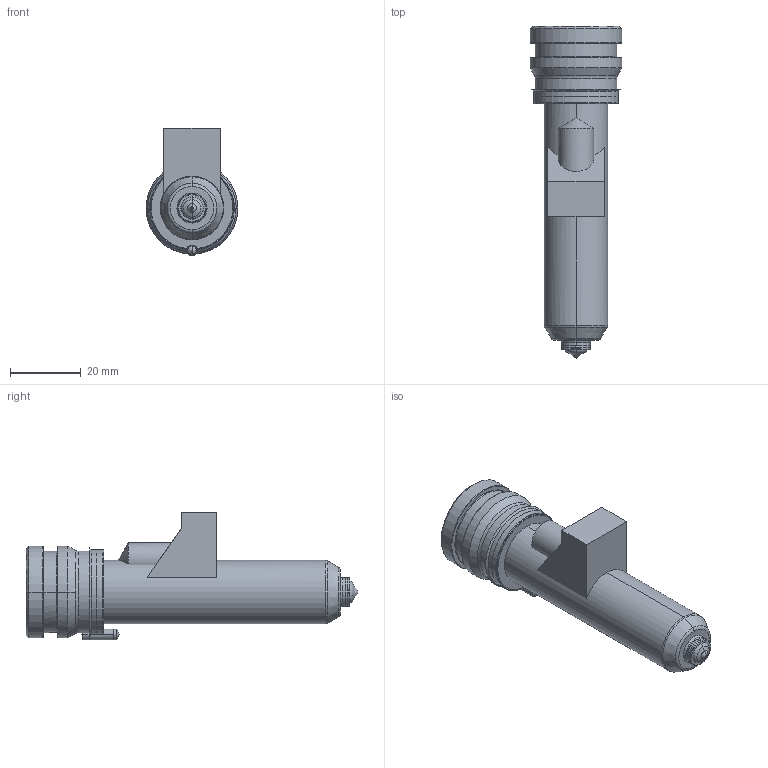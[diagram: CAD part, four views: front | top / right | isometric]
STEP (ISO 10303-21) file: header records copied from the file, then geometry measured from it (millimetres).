
FILE_DESCRIPTION((''),'2;1');
FILE_NAME('TH18076-M-1-PK-JG','2023-12-14T',('umhib'),('Thermoplay S.p.A.'),'PRO/ENGINEER BY PARAMETRIC TECHNOLOGY CORPORATION, 2017170','PRO/ENGINEER BY PARAMETRIC TECHNOLOGY CORPORATION, 2017170','');
FILE_SCHEMA(('CONFIG_CONTROL_DESIGN'));
Length unit declared in the file: millimetre
Products named in the file (1): TH18076-M-1-PK-JG
Bounding box: 26 x 94 x 36.1 mm (x, y, z)
Volume: 20650.2 mm3; surface area: 15988.2 mm2
Topology: 1 solids, 2 shells, 391 faces, 999 edges, 613 vertices
Faces by surface type: cylinder 149, plane 87, cone 62, torus 58, bspline 22, sphere 11, extrusion 2
Entity records: 16798 total; most frequent: CARTESIAN_POINT 5170, DIRECTION 2000, ORIENTED_EDGE 1972, EDGE_CURVE 988, AXIS2_PLACEMENT_3D 806, VERTEX_POINT 613, CIRCLE 438, EDGE_LOOP 414
